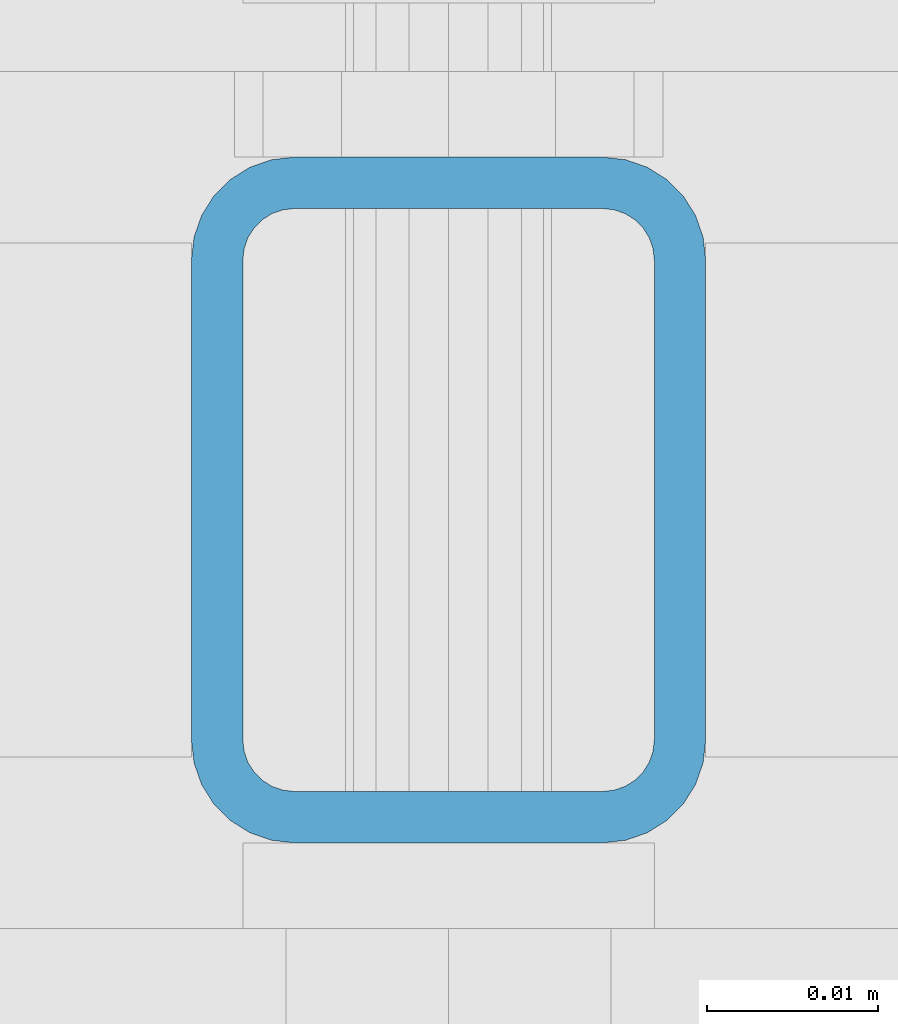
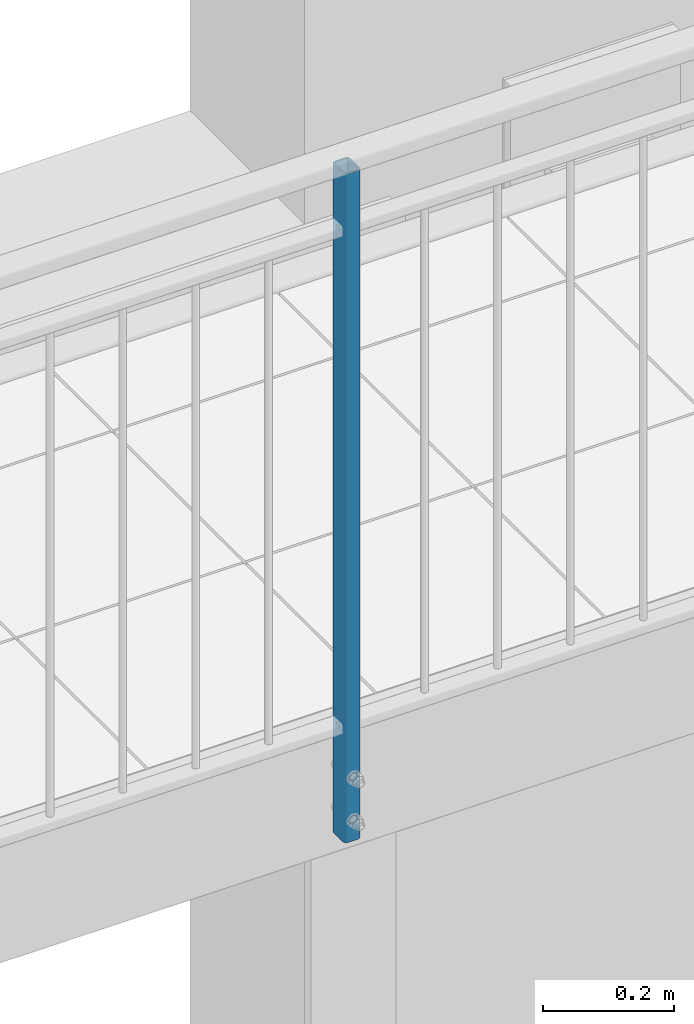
# One storey, part 5 of 162: 1 column, 8 openings.
"""IFC2X3 building model written with IfcOpenShell, lengths in millimetres."""

import ifcopenshell
import ifcopenshell.guid

model = None  # the IFC model being written
_history = None  # IfcOwnerHistory: only IFC2X3 demands one
_inside = {}  # id of a spatial element -> (the spatial element, [elements in it])
_under = {}  # id of a project, library or spatial element -> (it, [spatial elements below it])
_declared = {}  # id of a project -> (the project, [libraries it declares])
_typed = {}  # id of a type object -> (the type object, [elements of that type])
_made_of = {}  # id of a material, layer set ... -> (it, [elements and type objects made of it])


def new_model(schema):
    """Start an empty IFC model of exactly this schema.

    Asked for "IFC4X3", IfcOpenShell would pick the latest addendum, in which some entities
    have other attributes; the version numbers below select the first issue.
    IFC2X3 requires an IfcOwnerHistory on every rooted entity: one is made here for all.
    """
    global model, _history
    if schema == "IFC4X3":
        model = ifcopenshell.file(schema_version=(4, 3, 0, 0))
    else:
        model = ifcopenshell.file(schema=schema)
    _inside.clear()
    _under.clear()
    _declared.clear()
    _typed.clear()
    _made_of.clear()
    _history = None
    if model.schema == "IFC2X3":
        org = make("IfcOrganization", Name="unknown")
        user = make(
            "IfcPersonAndOrganization",
            ThePerson=make("IfcPerson", FamilyName="unknown"),
            TheOrganization=org,
        )
        app = make(
            "IfcApplication",
            ApplicationDeveloper=org,
            Version="unknown",
            ApplicationFullName="unknown",
            ApplicationIdentifier="unknown",
        )
        _history = make(
            "IfcOwnerHistory",
            OwningUser=user,
            OwningApplication=app,
            ChangeAction="ADDED",
            CreationDate=0,
        )
    return model


def make(cls, **values):
    """One entity of the class cls with the attributes given. An attribute that is None is left unset."""
    return model.create_entity(
        cls, **{name: value for name, value in values.items() if value is not None}
    )


def entity(cls, *values):
    """Any entity or typed value of the class cls, its attributes in the order of the schema. None: left unset."""
    e = model.create_entity(cls)
    for i, value in enumerate(values):
        if value is not None:
            e[i] = value
    return e


def rooted(cls, **values):
    """An entity with a GlobalId (a new one), such as an element, a storey or a relation."""
    return make(cls, GlobalId=ifcopenshell.guid.new(), OwnerHistory=_history, **values)


def si_unit(unit_type, name, prefix=None):
    """IfcSIUnit, for example si_unit("LENGTHUNIT", "METRE", prefix="MILLI")."""
    return make("IfcSIUnit", UnitType=unit_type, Prefix=prefix, Name=name)


def converted_unit(unit_type, name, factor, base, dimensions=None, offset=None):
    """IfcConversionBasedUnit, such as the inch: factor (a typed value) times the base unit."""
    return make(
        "IfcConversionBasedUnit"
        if offset is None
        else "IfcConversionBasedUnitWithOffset",
        ConversionOffset=offset,
        Dimensions=None
        if dimensions is None
        else entity("IfcDimensionalExponents", *dimensions),
        UnitType=unit_type,
        Name=name,
        ConversionFactor=make(
            "IfcMeasureWithUnit", ValueComponent=factor, UnitComponent=base
        ),
    )


def assignment(units):
    """IfcUnitAssignment: the units of a project."""
    return None if units is None else make("IfcUnitAssignment", Units=units)


def point(xyz):
    """IfcCartesianPoint."""
    return None if xyz is None else make("IfcCartesianPoint", Coordinates=xyz)


def direction(xyz):
    """IfcDirection."""
    return None if xyz is None else make("IfcDirection", DirectionRatios=xyz)


def frame(location, z_axis=None, x_axis=None):
    """IfcAxis2Placement3D, a coordinate frame: its origin and axes. An axis left out is left unset."""
    return make(
        "IfcAxis2Placement3D",
        Location=point(location),
        Axis=direction(z_axis),
        RefDirection=direction(x_axis),
    )


def frame_2d(location, x_axis=None):
    """IfcAxis2Placement2D, a coordinate frame in the plane: its origin and x axis."""
    return make(
        "IfcAxis2Placement2D", Location=point(location), RefDirection=direction(x_axis)
    )


def origin():
    """The frame at (0, 0, 0) with its axes left unset."""
    return frame((0.0, 0.0, 0.0))


def origin_with_axes():
    """The frame at (0, 0, 0) with the z axis (0, 0, 1) and the x axis (1, 0, 0) written out."""
    return frame((0.0, 0.0, 0.0), z_axis=(0.0, 0.0, 1.0), x_axis=(1.0, 0.0, 0.0))


def origin_2d():
    """The frame at (0, 0) in the plane with its x axis left unset."""
    return frame_2d((0.0, 0.0))


def place(relative_to, where):
    """IfcLocalPlacement: puts the frame where relative to a parent placement (None: the world)."""
    return make(
        "IfcLocalPlacement", PlacementRelTo=relative_to, RelativePlacement=where
    )


def context(
    kind, dimensions, precision=None, world=None, true_north=None, identifier=None
):
    """IfcGeometricRepresentationContext, for example the 3D "Model" context."""
    return make(
        "IfcGeometricRepresentationContext",
        ContextIdentifier=identifier,
        ContextType=kind,
        CoordinateSpaceDimension=dimensions,
        Precision=precision,
        WorldCoordinateSystem=world,
        TrueNorth=true_north,
    )


def project(units=None, contexts=None):
    """IfcProject with its units and contexts."""
    return rooted(
        "IfcProject",
        Name="project",
        RepresentationContexts=contexts,
        UnitsInContext=assignment(units),
    )


def spatial(cls, under=None, at=None, **own):
    """A site, building, storey or space (cls), placed at a placement, below another one or the project."""
    s = rooted(cls, ObjectPlacement=at, **own)
    if under is not None:
        _under.setdefault(under.id(), (under, []))[1].append(s)
    return s


def profile(cls, at=None, kind="AREA", **sizes):
    """A parametric profile (cls). Its sizes go by their IFC names, for example OverallWidth=200.0."""
    return make(cls, ProfileType=kind, Position=at, **sizes)


def hollow_rectangle(**sizes):
    """IfcRectangleHollowProfileDef."""
    return profile("IfcRectangleHollowProfileDef", **sizes)


def circle(**sizes):
    """IfcCircleProfileDef."""
    return profile("IfcCircleProfileDef", **sizes)


def extrude(swept, where, along, depth):
    """IfcExtrudedAreaSolid: the profile swept, set in the frame where, extruded along a direction by depth."""
    return make(
        "IfcExtrudedAreaSolid",
        SweptArea=swept,
        Position=where,
        ExtrudedDirection=direction(along),
        Depth=depth,
    )


def shape(context_of_items, identifier, shape_type, items):
    """IfcShapeRepresentation: the items that make up one representation, for example the "Body"."""
    return make(
        "IfcShapeRepresentation",
        ContextOfItems=context_of_items,
        RepresentationIdentifier=identifier,
        RepresentationType=shape_type,
        Items=items,
    )


def material(Name=None, Category=None):
    """IfcMaterial."""
    return make("IfcMaterial", Name=Name, Category=Category)


def made_of(thing, what):
    """Note that an element or type object is made of a material, layer set ...; save() writes the relation."""
    if what is not None:
        _made_of.setdefault(what.id(), (what, []))[1].append(thing)
    return thing


def element(
    cls,
    number,
    at=None,
    inside=None,
    cuts=None,
    type_object=None,
    material=None,
    context=None,
    identifier="Body",
    shape_type=None,
    held_by="IfcProductDefinitionShape",
    body=None,
    shapes=None,
    **own,
):
    """One element of the class cls, such as IfcWall. Its Tag is "e" and its number.

    at: its placement. inside: the storey or other place that contains it. cuts: it is an
    opening in that element (IfcRelVoidsElement). A single representation is given by context,
    identifier, shape_type and body (its items); several are given by shapes. held_by: the class
    of the entity that holds the representations. save() writes the other relations.
    """
    e = rooted(cls, Tag="e%d" % number, ObjectPlacement=at, **own)
    if body is not None:
        shapes = [shape(context, identifier, shape_type, body)]
    if shapes is not None:
        e.Representation = make(held_by, Representations=shapes)
    if inside is not None:
        _inside.setdefault(inside.id(), (inside, []))[1].append(e)
    if cuts is not None:
        rooted(
            "IfcRelVoidsElement", RelatingBuildingElement=cuts, RelatedOpeningElement=e
        )
    if type_object is not None:
        _typed.setdefault(type_object.id(), (type_object, []))[1].append(e)
    return made_of(e, material)


def aggregate(whole, parts):
    """IfcRelAggregates: a whole, such as a stair, and the parts it consists of."""
    return rooted("IfcRelAggregates", RelatingObject=whole, RelatedObjects=parts)


def save(model, path):
    """Write the relations noted so far, then the file.

    IfcRelAggregates (storeys below a building ...), IfcRelContainedInSpatialStructure (elements
    in a storey), IfcRelDefinesByType, IfcRelAssociatesMaterial and IfcRelDeclares: one each for
    every whole, place, type object, material and project.
    """
    for whole, parts in _under.values():
        aggregate(whole, parts)
    for where, things in _inside.values():
        rooted(
            "IfcRelContainedInSpatialStructure",
            RelatedElements=things,
            RelatingStructure=where,
        )
    for kind, things in _typed.values():
        rooted("IfcRelDefinesByType", RelatedObjects=things, RelatingType=kind)
    for what, things in _made_of.values():
        rooted("IfcRelAssociatesMaterial", RelatedObjects=things, RelatingMaterial=what)
    for by, libraries in _declared.values():
        rooted("IfcRelDeclares", RelatingContext=by, RelatedDefinitions=libraries)
    model.write(path)


model = new_model("IFC2X3")

# Units and contexts
model_context = context("Model", 3, precision=1e-09, world=origin_with_axes())
ifc_project = project(units=[si_unit("LENGTHUNIT", "METRE", prefix="MILLI"), si_unit("AREAUNIT", "SQUARE_METRE"), si_unit("VOLUMEUNIT", "CUBIC_METRE"), converted_unit("PLANEANGLEUNIT", "DEGREE", entity("IfcPlaneAngleMeasure", 0.01745329), si_unit("PLANEANGLEUNIT", "RADIAN"), dimensions=[0, 0, 0, 0, 0, 0, 0])], contexts=[model_context])

# Site, building, storey
site_placement = place(None, origin_with_axes())
site = spatial("IfcSite", under=ifc_project, at=site_placement, Name="Hermannstra?e 1a, 60318 Frankfurt", CompositionType="ELEMENT")
building_placement = place(site_placement, origin_with_axes())
building = spatial("IfcBuilding", under=site, at=building_placement, Name="Struktur 1", CompositionType="ELEMENT")
storey_placement = place(building_placement, origin_with_axes())
storey = spatial("IfcBuildingStorey", under=building, at=storey_placement, Name="Default Storey", CompositionType="ELEMENT", Elevation=0.0)

# Column, openings
ifc_material = material(Name="S235JR")
column_placement = place(None, frame((4443.30936482, 1515.609373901, 15056.999), z_axis=(0.0, 0.0, -1.0), x_axis=(1.0, 0.0, 0.0)))
column = element("IfcColumn", 1, at=column_placement, inside=storey, material=ifc_material, Name="-", ObjectType="-", context=model_context, shape_type="SweptSolid", body=[
    extrude(hollow_rectangle(XDim=30.0, YDim=40.0, WallThickness=3.0, InnerFilletRadius=3.0, OuterFilletRadius=6.0, at=origin_2d()), origin(), (0.0, 0.0, -1.0), 1250.0),
])
opening_1_placement = place(column_placement, frame((-11.5, 5.001, -210.0), z_axis=(1.0, 0.0, 0.0), x_axis=(0.0, 1.0, 0.0)))
element("IfcOpeningElement", 2, at=opening_1_placement, cuts=column, ObjectType="Opening", context=model_context, shape_type="SweptSolid", body=[
    extrude(circle(Radius=5.001, at=frame_2d((-5.001, 0.0), x_axis=(1.0, 0.0))), origin(), (0.0, 0.0, -1.0), 4.0),
])
opening_2_placement = place(column_placement, frame((-11.5, 5.001, -1140.0), z_axis=(1.0, 0.0, 0.0), x_axis=(0.0, 1.0, 0.0)))
element("IfcOpeningElement", 3, at=opening_2_placement, cuts=column, ObjectType="Opening", context=model_context, shape_type="SweptSolid", body=[
    extrude(circle(Radius=5.001, at=frame_2d((-5.001, 0.0), x_axis=(1.0, 0.0))), origin(), (0.0, 0.0, -1.0), 4.0),
])
opening_3_placement = place(column_placement, frame((11.5, 0.0, -1040.0), z_axis=(1.0, 0.0, 0.0), x_axis=(0.0, -1.0, 0.0)))
element("IfcOpeningElement", 4, at=opening_3_placement, cuts=column, ObjectType="Opening", context=model_context, shape_type="SweptSolid", body=[
    extrude(circle(Radius=5.001, at=frame_2d((0.0, 100.0), x_axis=(1.0, 0.0))), origin(), (0.0, 0.0, 1.0), 4.0),
])
opening_4_placement = place(column_placement, frame((11.5, 0.0, -240.0), z_axis=(1.0, 0.0, 0.0), x_axis=(0.0, -1.0, 0.0)))
element("IfcOpeningElement", 5, at=opening_4_placement, cuts=column, ObjectType="Opening", context=model_context, shape_type="SweptSolid", body=[
    extrude(circle(Radius=5.001, at=frame_2d((0.0, -30.0), x_axis=(1.0, 0.0))), origin(), (0.0, 0.0, 1.0), 4.0),
])
opening_5_placement = place(column_placement, frame((-8.001, -16.5, -120.0), z_axis=(0.0, 1.0, 0.0), x_axis=(-1.0, 0.0, 0.0)))
element("IfcOpeningElement", 6, at=opening_5_placement, cuts=column, ObjectType="Opening", context=model_context, shape_type="SweptSolid", body=[
    extrude(circle(Radius=8.001, at=frame_2d((-8.001, 0.0), x_axis=(1.0, 0.0))), origin(), (0.0, 0.0, -1.0), 4.0),
])
opening_6_placement = place(column_placement, frame((-8.001, -16.5, -40.0), z_axis=(0.0, 1.0, 0.0), x_axis=(-1.0, 0.0, 0.0)))
element("IfcOpeningElement", 7, at=opening_6_placement, cuts=column, ObjectType="Opening", context=model_context, shape_type="SweptSolid", body=[
    extrude(circle(Radius=8.001, at=frame_2d((-8.001, 0.0), x_axis=(1.0, 0.0))), origin(), (0.0, 0.0, -1.0), 4.0),
])
opening_7_placement = place(column_placement, frame((-8.001, 20.5, -120.0), z_axis=(0.0, 1.0, 0.0), x_axis=(-1.0, 0.0, 0.0)))
element("IfcOpeningElement", 8, at=opening_7_placement, cuts=column, ObjectType="Opening", context=model_context, shape_type="SweptSolid", body=[
    extrude(circle(Radius=8.001, at=frame_2d((-8.001, 0.0), x_axis=(1.0, 0.0))), origin(), (0.0, 0.0, -1.0), 4.0),
])
opening_8_placement = place(column_placement, frame((-8.001, 20.5, -40.0), z_axis=(0.0, 1.0, 0.0), x_axis=(-1.0, 0.0, 0.0)))
element("IfcOpeningElement", 9, at=opening_8_placement, cuts=column, ObjectType="Opening", context=model_context, shape_type="SweptSolid", body=[
    extrude(circle(Radius=8.001, at=frame_2d((-8.001, 0.0), x_axis=(1.0, 0.0))), origin(), (0.0, 0.0, -1.0), 4.0),
])

save(model, "model.ifc")
